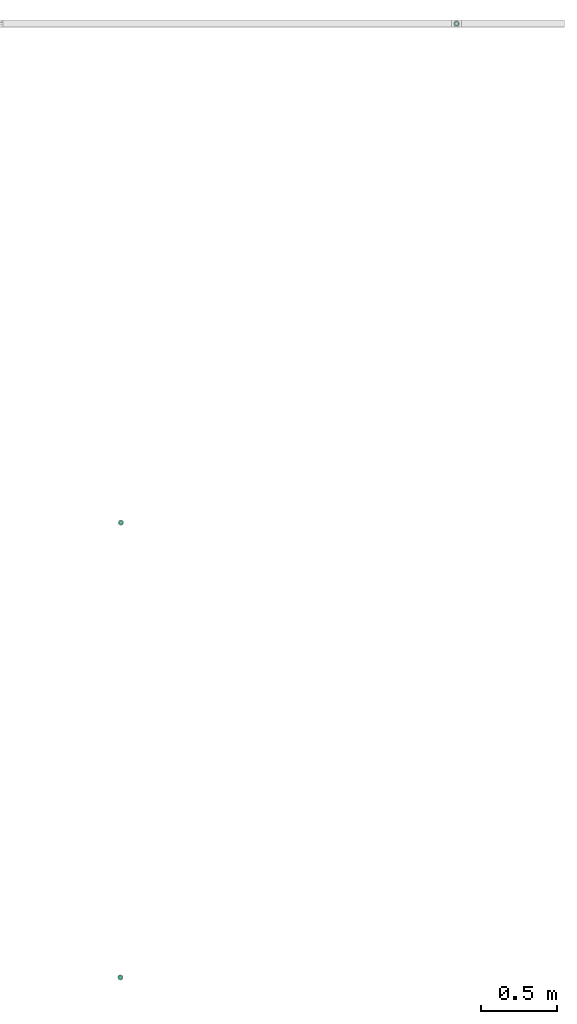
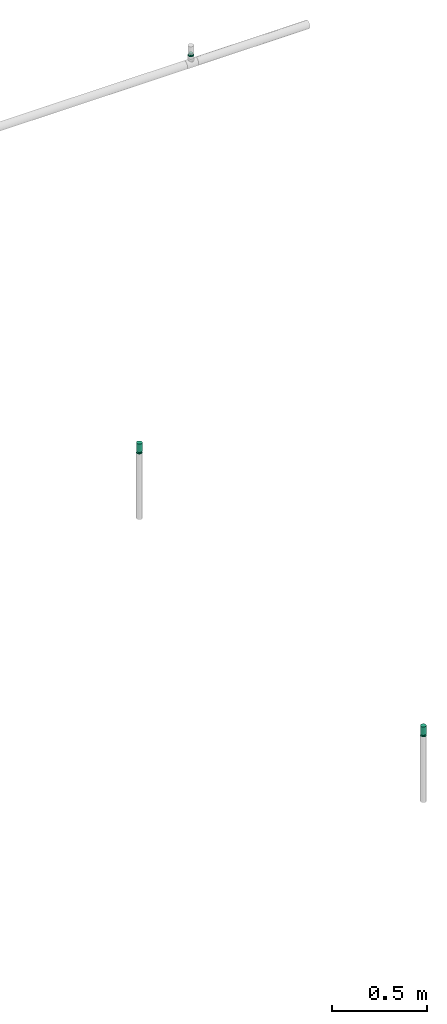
# One storey, part 7 of 14: 3 flow fittings, 2 flow terminals.
"""IFC2X3 building model written with IfcOpenShell, lengths in millimetres."""

from ifc_helpers import new_model, entity, si_unit, converted_unit, derived_unit, direction, frame, origin_with_axes, place, context, subcontext, project, spatial, open_shell, surface_model, source, transform, mapped, type_object, element, save


model = new_model("IFC2X3")

# Units and contexts
model_context = context("Model", 3, precision=0.01, world=frame((0.0, 4.29681676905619e-09, 0.0)), true_north=direction((4.01073788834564e-13, 1.0)))
plan_context = context("Plan", 3, precision=0.01, world=frame((0.0, 4.29681676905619e-09, 0.0)), true_north=direction((4.01073788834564e-13, 1.0)))
body_context = subcontext(model_context, "Body", "Model", "MODEL_VIEW")
ifc_project = project(units=[converted_unit("PLANEANGLEUNIT", "DEGREE", entity("IfcPositiveLengthMeasure", 0.0174532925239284), si_unit("PLANEANGLEUNIT", "RADIAN"), dimensions=[0, 0, 0, 0, 0, 0, 0]), si_unit("AREAUNIT", "SQUARE_METRE"), si_unit("LENGTHUNIT", "METRE", prefix="MILLI"), si_unit("MASSUNIT", "GRAM", prefix="KILO"), si_unit("POWERUNIT", "WATT"), si_unit("PRESSUREUNIT", "PASCAL", prefix="KILO"), si_unit("FORCEUNIT", "NEWTON", prefix="KILO"), si_unit("ELECTRICVOLTAGEUNIT", "VOLT"), si_unit("ELECTRICCURRENTUNIT", "AMPERE"), si_unit("THERMODYNAMICTEMPERATUREUNIT", "DEGREE_CELSIUS"), si_unit("TIMEUNIT", "SECOND"), si_unit("VOLUMEUNIT", "CUBIC_METRE"), derived_unit("LINEARVELOCITYUNIT", [(si_unit("LENGTHUNIT", "METRE"), 1), (si_unit("TIMEUNIT", "SECOND"), -1)]), derived_unit("VOLUMETRICFLOWRATEUNIT", [(si_unit("VOLUMEUNIT", "CUBIC_METRE"), 1), (si_unit("TIMEUNIT", "SECOND"), -1)]), derived_unit("THERMALTRANSMITTANCEUNIT", [(si_unit("POWERUNIT", "WATT"), 1), (si_unit("THERMODYNAMICTEMPERATUREUNIT", "KELVIN"), -1), (si_unit("AREAUNIT", "SQUARE_METRE"), -1)]), derived_unit("SOUNDPRESSUREUNIT", [(si_unit("PRESSUREUNIT", "PASCAL"), 1)])], contexts=[model_context, plan_context])

# Site, building, storey
site_placement = place(None, frame((0.0, -4.29681676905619e-09, 0.0), z_axis=(0.0, 0.0, 1.0), x_axis=(1.0, 0.0, 0.0)))
site = spatial("IfcSite", under=ifc_project, at=site_placement, CompositionType="ELEMENT")
building_placement = place(site_placement, frame((0.0, 4.29681676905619e-09, 0.0), z_axis=(0.0, 0.0, 1.0), x_axis=(1.0, 0.0, 0.0)))
building = spatial("IfcBuilding", under=site, at=building_placement, Name="mc-building", CompositionType="ELEMENT")
storey_placement = place(building_placement, frame((0.0, 0.0, 204000.0), z_axis=(0.0, 0.0, 1.0), x_axis=(1.0, 0.0, 0.0)))
storey = spatial("IfcBuildingStorey", under=building, at=storey_placement, Name="Nivå D", CompositionType="ELEMENT", Elevation=204000.0)

# Flow fittings
pipe_fitting_type = type_object("IfcPipeFittingType", Name="magi_pipe_fe_reducer_centric_short_NOR", PredefinedType="TRANSITION")
shared_shape_1 = source(origin_with_axes(), body_context, "Body", "SurfaceModel", [
    surface_model("IfcShellBasedSurfaceModel", [(14.4, 5.35, -9.26647), (14.4, 0.0, -10.7), (14.4, 2.76936, -10.33541), (14.4, 10.33541, -2.76936), (14.4, 7.56604, -7.56604), (14.4, -5.35, -9.26647), (14.4, 9.26647, -5.35), (14.4, -9.26647, 5.35), (14.4, -2.76936, -10.33541), (14.4, -7.56604, -7.56604), (14.4, -10.33541, -2.76936), (14.4, -9.26647, -5.35), (14.4, 10.33541, 2.76936), (14.4, 10.7, 0.0), (14.4, 9.26647, 5.35), (14.4, 7.56604, 7.56604), (14.4, 2.76936, 10.33541), (14.4, 0.0, 10.7), (14.4, 5.35, 9.26647), (14.4, -10.33541, 2.76936), (14.4, -10.7, 0.0), (14.4, -7.56604, 7.56604), (14.4, -2.76936, 10.33541), (14.4, -5.35, 9.26647), (12.4, 0.0, 10.7), (12.4, 2.76936, 10.33541), (12.4, 5.35, 9.26647), (12.4, 7.56604, 7.56604), (12.4, 9.26647, 5.35), (12.4, 10.33541, 2.76936), (12.4, -10.33541, 2.76936), (12.4, 10.33541, -2.76936), (12.4, -2.76936, 10.33541), (12.4, -7.56604, 7.56604), (12.4, -5.35, 9.26647), (12.4, -9.26647, 5.35), (12.4, -10.33541, -2.76936), (12.4, -10.7, 0.0), (12.4, 2.76936, -10.33541), (12.4, 9.26647, -5.35), (12.4, 7.56604, -7.56604), (12.4, 5.35, -9.26647), (12.4, -7.56604, -7.56604), (12.4, -9.26647, -5.35), (12.4, -5.35, -9.26647), (12.4, 0.0, -10.7), (12.4, -2.76936, -10.33541), (12.4, 10.7, 0.0), (-2.0, 11.9501, 11.9501), (-2.0, 0.0, 16.9), (-2.0, 4.37404, 16.32415), (-2.0, 8.45, 14.63583), (-2.0, 14.63583, 8.45), (-2.0, 16.32415, 4.37404), (-2.0, -16.32415, 4.37404), (-2.0, -8.45, 14.63583), (-2.0, -14.63583, 8.45), (-2.0, -11.9501, 11.9501), (-2.0, -4.37404, 16.32415), (-2.0, -16.32415, -4.37404), (-2.0, -16.9, 0.0), (-2.0, -8.45, -14.63583), (-2.0, 16.32415, -4.37404), (-2.0, 11.9501, -11.9501), (-2.0, 14.63583, -8.45), (-2.0, 8.45, -14.63583), (-2.0, 4.37404, -16.32415), (-2.0, 0.0, -16.9), (-2.0, -11.9501, -11.9501), (-2.0, -14.63583, -8.45), (-2.0, -4.37404, -16.32415), (-2.0, 16.9, 0.0), (0.0, 4.37404, -16.32415), (0.0, 8.45, -14.63583), (0.0, 11.9501, -11.9501), (0.0, 0.0, -16.9), (0.0, 16.32415, -4.37404), (0.0, 16.32415, 4.37404), (0.0, 14.63583, -8.45), (0.0, -8.45, -14.63583), (0.0, -4.37404, -16.32415), (0.0, -11.9501, -11.9501), (0.0, -16.32415, -4.37404), (0.0, -14.63583, -8.45), (0.0, -16.32415, 4.37404), (0.0, 16.9, 0.0), (0.0, 14.63583, 8.45), (0.0, 11.9501, 11.9501), (0.0, 4.37404, 16.32415), (0.0, 8.45, 14.63583), (0.0, 0.0, 16.9), (0.0, -14.63583, 8.45), (0.0, -16.9, 0.0), (0.0, -8.45, 14.63583), (0.0, -11.9501, 11.9501), (0.0, -4.37404, 16.32415), (12.4, 9.3625, -2.31662), (0.0, 14.42505, -5.97505), (0.0, 15.66253, -2.98753), (12.4, -6.6875, -6.94985), (0.0, -13.18758, -8.96258), (0.0, 2.98753, -15.66253), (12.4, 0.0, -9.26647), (12.4, 6.6875, -6.94985), (0.0, 8.96258, -13.18758), (12.4, -9.3625, -2.31662), (0.0, -15.66253, -2.98753), (0.0, -14.42505, -5.97505), (0.0, 5.97505, -14.42505), (0.0, -2.98753, -15.66253), (0.0, -8.96258, -13.18758), (0.0, 13.18758, -8.96258), (12.4, 8.025, -4.63324), (12.4, -2.675, -9.26647), (12.4, 2.675, -9.26647), (0.0, -5.97505, -14.42505), (12.4, -8.025, -4.63324), (12.4, -9.3625, 2.31662), (0.0, -14.42505, 5.97505), (0.0, -15.66253, 2.98753), (12.4, 6.6875, 6.94985), (0.0, 13.18758, 8.96258), (0.0, -2.98753, 15.66253), (12.4, 0.0, 9.26647), (12.4, -6.6875, 6.94985), (0.0, -8.96258, 13.18758), (12.4, 9.3625, 2.31662), (0.0, 15.66253, 2.98753), (0.0, 14.42505, 5.97505), (0.0, -5.97505, 14.42505), (0.0, 2.98753, 15.66253), (0.0, 8.96258, 13.18758), (0.0, -13.18758, 8.96258), (12.4, -8.025, 4.63324), (12.4, 2.675, 9.26647), (12.4, -2.675, 9.26647), (0.0, 5.97505, 14.42505), (12.4, 8.025, 4.63324)], [open_shell([[[0, 1, 2]], [[3, 0, 4]], [[5, 0, 3]], [[3, 4, 6]], [[7, 5, 3]], [[1, 5, 8]], [[1, 0, 5]], [[9, 10, 11]], [[10, 9, 5]], [[5, 7, 10]], [[12, 3, 13]], [[12, 14, 15]], [[3, 15, 7]], [[16, 17, 15]], [[16, 15, 18]], [[7, 15, 17]], [[10, 19, 20]], [[7, 19, 10]], [[21, 22, 23]], [[22, 21, 7]], [[17, 22, 7]], [[3, 12, 15]], [[24, 25, 26]], [[24, 26, 27]], [[27, 28, 29]], [[24, 27, 30]], [[31, 30, 27]], [[32, 33, 34]], [[33, 32, 30]], [[33, 30, 35]], [[32, 24, 30]], [[30, 36, 37]], [[31, 27, 29]], [[36, 30, 31]], [[38, 31, 39]], [[40, 41, 38]], [[40, 38, 39]], [[36, 31, 38]], [[36, 42, 43]], [[42, 36, 44]], [[44, 45, 46]], [[44, 36, 38]], [[38, 45, 44]], [[31, 29, 47]], [[36, 10, 37]], [[43, 11, 36]], [[5, 42, 44]], [[43, 42, 9]], [[8, 44, 46]], [[36, 11, 10]], [[10, 20, 37]], [[8, 5, 44]], [[9, 42, 5]], [[9, 11, 43]], [[1, 8, 46]], [[46, 45, 1]], [[38, 2, 45]], [[41, 0, 38]], [[6, 40, 39]], [[41, 40, 4]], [[3, 39, 31]], [[41, 4, 0]], [[0, 2, 38]], [[13, 3, 31]], [[6, 39, 3]], [[6, 4, 40]], [[47, 13, 31]], [[45, 2, 1]], [[29, 12, 47]], [[28, 14, 29]], [[18, 27, 26]], [[28, 27, 15]], [[16, 26, 25]], [[29, 14, 12]], [[12, 13, 47]], [[16, 18, 26]], [[15, 27, 18]], [[15, 14, 28]], [[17, 16, 25]], [[25, 24, 17]], [[32, 22, 24]], [[34, 23, 32]], [[7, 33, 35]], [[34, 33, 21]], [[19, 35, 30]], [[34, 21, 23]], [[23, 22, 32]], [[20, 19, 30]], [[7, 35, 19]], [[7, 21, 33]], [[37, 20, 30]], [[24, 22, 17]], [[48, 49, 50]], [[48, 50, 51]], [[48, 52, 53]], [[48, 53, 49]], [[49, 53, 54]], [[55, 56, 57]], [[55, 58, 49]], [[56, 55, 49]], [[49, 54, 56]], [[54, 59, 60]], [[54, 53, 61]], [[53, 62, 63]], [[63, 62, 64]], [[63, 65, 66]], [[61, 53, 63]], [[67, 63, 66]], [[59, 68, 69]], [[68, 59, 61]], [[61, 67, 70]], [[59, 54, 61]], [[63, 67, 61]], [[53, 71, 62]], [[72, 73, 74]], [[75, 72, 74]], [[74, 76, 77]], [[76, 74, 78]], [[74, 77, 79]], [[75, 79, 80]], [[75, 74, 79]], [[81, 82, 83]], [[82, 81, 79]], [[79, 84, 82]], [[77, 76, 85]], [[77, 86, 87]], [[77, 87, 88]], [[88, 84, 79]], [[88, 87, 89]], [[84, 88, 90]], [[90, 91, 84]], [[92, 82, 84]], [[91, 93, 94]], [[91, 90, 93]], [[93, 90, 95]], [[79, 77, 88]], [[59, 82, 60]], [[69, 83, 59]], [[79, 68, 61]], [[69, 68, 81]], [[80, 61, 70]], [[59, 83, 82]], [[82, 92, 60]], [[80, 79, 61]], [[81, 68, 79]], [[81, 83, 69]], [[75, 80, 70]], [[70, 67, 75]], [[66, 72, 67]], [[65, 73, 66]], [[78, 63, 64]], [[65, 63, 74]], [[76, 64, 62]], [[65, 74, 73]], [[73, 72, 66]], [[85, 76, 62]], [[78, 64, 76]], [[78, 74, 63]], [[71, 85, 62]], [[67, 72, 75]], [[53, 77, 71]], [[52, 86, 53]], [[89, 48, 51]], [[52, 48, 87]], [[88, 51, 50]], [[53, 86, 77]], [[77, 85, 71]], [[88, 89, 51]], [[87, 48, 89]], [[87, 86, 52]], [[90, 88, 50]], [[50, 49, 90]], [[58, 95, 49]], [[55, 93, 58]], [[91, 57, 56]], [[55, 57, 94]], [[84, 56, 54]], [[55, 94, 93]], [[93, 95, 58]], [[92, 84, 54]], [[91, 56, 84]], [[91, 94, 57]], [[60, 92, 54]], [[49, 95, 90]], [[26, 34, 47]], [[47, 34, 44]], [[44, 41, 47]], [[44, 34, 37]], [[90, 87, 92]], [[92, 94, 90]], [[87, 74, 92]], [[75, 92, 74]], [[81, 92, 75]], [[74, 87, 85]], [[96, 97, 98]], [[81, 99, 100]], [[101, 102, 75]], [[98, 85, 47]], [[74, 103, 104]], [[104, 103, 41]], [[105, 106, 107]], [[41, 108, 104]], [[102, 109, 75]], [[110, 99, 81]], [[47, 96, 98]], [[103, 111, 112]], [[109, 102, 113]], [[37, 92, 106]], [[102, 101, 114]], [[110, 115, 44]], [[96, 112, 97]], [[107, 116, 105]], [[37, 106, 105]], [[113, 115, 109]], [[44, 115, 113]], [[116, 107, 100]], [[108, 41, 114]], [[111, 103, 74]], [[111, 97, 112]], [[99, 110, 44]], [[116, 100, 99]], [[101, 108, 114]], [[117, 118, 119]], [[87, 120, 121]], [[122, 123, 90]], [[119, 92, 37]], [[94, 124, 125]], [[125, 124, 34]], [[126, 127, 128]], [[34, 129, 125]], [[123, 130, 90]], [[131, 120, 87]], [[37, 117, 119]], [[124, 132, 133]], [[130, 123, 134]], [[47, 85, 127]], [[123, 122, 135]], [[131, 136, 26]], [[117, 133, 118]], [[128, 137, 126]], [[47, 127, 126]], [[134, 136, 130]], [[26, 136, 134]], [[137, 128, 121]], [[129, 34, 135]], [[132, 124, 94]], [[132, 118, 133]], [[120, 131, 26]], [[137, 121, 120]], [[122, 129, 135]]])]),
])
for number, where, z_axis, x_axis, name in (
    (1, (601060.0, 576802.46783, 6108.64799999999), (0.0, 1.0, 0.0), (0.0, 0.0, 1.0), "magi_pipe_fe_reducer_centric_short_NOR"),
    (2, (598842.4709, 573505.33925, 6323.53031), (0.0, 1.0, 0.0), (0.0, 0.0, 1.0), "magi_pipe_fe_reducer_centric_short_NOR"),
    (3, (598839.0246, 570500.0, 6323.848), (0.0, 1.0, 0.0), (0.0, 0.0, 1.0), "magi_pipe_fe_reducer_centric_short_NOR"),
):
    element("IfcFlowFitting", number, at=place(storey_placement, frame(where, z_axis=z_axis, x_axis=x_axis)), inside=storey, type_object=pipe_fitting_type, Name=name, context=body_context, shape_type="MappedRepresentation", body=[
        mapped(shared_shape_1, transform((0.0, 0.0, 0.0), scale=1.0)),
    ])

# Flow terminals
fire_suppression_terminal_type = type_object("IfcFireSuppressionTerminalType", Name="SP-15-K80-68DGR-STD-STÅENDE", PredefinedType="NOTDEFINED")
shared_shape_2 = source(origin_with_axes(), body_context, "Body", "SurfaceModel", [
    surface_model("IfcShellBasedSurfaceModel", [(4.1411, -15.45481, 53.0), (8.0, -13.85641, 53.0), (11.31371, -11.31371, 53.0), (-8.0, -13.85641, 53.0), (15.45481, -4.1411, 53.0), (16.0, 0.0, 53.0), (13.85641, -8.0, 53.0), (0.0, -16.0, 53.0), (-4.1411, -15.45481, 53.0), (-13.85641, -8.0, 53.0), (-11.31371, -11.31371, 53.0), (-15.45481, -4.1411, 53.0), (15.45481, 4.1411, 53.0), (13.85641, 8.0, 53.0), (11.31371, 11.31371, 53.0), (-4.1411, 15.45481, 53.0), (8.0, 13.85641, 53.0), (4.1411, 15.45481, 53.0), (0.0, 16.0, 53.0), (-13.85641, 8.0, 53.0), (-15.45481, 4.1411, 53.0), (-16.0, 0.0, 53.0), (-11.31371, 11.31371, 53.0), (-8.0, 13.85641, 53.0), (0.0, 16.0, 0.0), (4.1411, 15.45481, 0.0), (8.0, 13.85641, 0.0), (-4.1411, 15.45481, 0.0), (11.31371, 11.31371, 0.0), (13.85641, 8.0, 0.0), (15.45481, 4.1411, 0.0), (-15.45481, -4.1411, 0.0), (-11.31371, 11.31371, 0.0), (-8.0, 13.85641, 0.0), (-13.85641, 8.0, 0.0), (-15.45481, 4.1411, 0.0), (-16.0, 0.0, 0.0), (4.1411, -15.45481, 0.0), (16.0, 0.0, 0.0), (15.45481, -4.1411, 0.0), (13.85641, -8.0, 0.0), (11.31371, -11.31371, 0.0), (8.0, -13.85641, 0.0), (-8.0, -13.85641, 0.0), (-13.85641, -8.0, 0.0), (-11.31371, -11.31371, 0.0), (0.0, -16.0, 0.0), (-4.1411, -15.45481, 0.0)], [open_shell([[[0, 1, 2]], [[3, 0, 2]], [[4, 5, 2]], [[4, 2, 6]], [[3, 2, 5]], [[7, 3, 8]], [[7, 0, 3]], [[3, 9, 10]], [[9, 3, 11]], [[5, 11, 3]], [[5, 12, 11]], [[12, 13, 14]], [[15, 12, 14]], [[16, 17, 18]], [[14, 16, 15]], [[18, 15, 16]], [[11, 19, 20]], [[21, 11, 20]], [[22, 15, 23]], [[15, 22, 19]], [[19, 11, 15]], [[11, 12, 15]], [[24, 25, 26]], [[27, 24, 26]], [[28, 29, 30]], [[27, 26, 28]], [[27, 28, 31]], [[27, 32, 33]], [[32, 27, 34]], [[34, 31, 35]], [[31, 34, 27]], [[35, 31, 36]], [[28, 30, 31]], [[37, 38, 39]], [[37, 39, 40]], [[41, 42, 37]], [[41, 37, 40]], [[38, 37, 43]], [[44, 43, 45]], [[43, 44, 31]], [[43, 46, 47]], [[43, 31, 38]], [[37, 46, 43]], [[38, 31, 30]], [[11, 31, 44]], [[45, 9, 44]], [[3, 43, 47]], [[45, 43, 10]], [[8, 47, 46]], [[31, 21, 36]], [[31, 11, 21]], [[44, 9, 11]], [[45, 10, 9]], [[3, 10, 43]], [[47, 8, 3]], [[46, 7, 8]], [[0, 37, 42]], [[41, 1, 42]], [[6, 40, 39]], [[41, 40, 2]], [[4, 39, 38]], [[37, 0, 7]], [[42, 1, 0]], [[41, 2, 1]], [[40, 6, 2]], [[4, 6, 39]], [[38, 5, 4]], [[37, 7, 46]], [[12, 38, 30]], [[13, 30, 29]], [[16, 26, 25]], [[17, 25, 24]], [[30, 13, 12]], [[12, 5, 38]], [[28, 14, 13]], [[28, 26, 14]], [[14, 26, 16]], [[25, 17, 16]], [[28, 13, 29]], [[24, 18, 17]], [[15, 27, 33]], [[32, 23, 33]], [[19, 34, 35]], [[32, 34, 22]], [[20, 35, 36]], [[27, 15, 18]], [[33, 23, 15]], [[32, 22, 23]], [[34, 19, 22]], [[20, 19, 35]], [[36, 21, 20]], [[27, 18, 24]]])]),
])
for number, where, z_axis, x_axis in (
    (4, (598842.4709, 573505.33925, 6332.88230999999), (0.0, 0.0, 1.0), (1.0, 0.0, 0.0)),
    (5, (598839.0246, 570500.0, 6333.20000000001), (0.0, 0.0, 1.0), (1.0, 0.0, 0.0)),
):
    element("IfcFlowTerminal", number, at=place(storey_placement, frame(where, z_axis=z_axis, x_axis=x_axis)), inside=storey, type_object=fire_suppression_terminal_type, Name="SP-15-K80-68DGR-STD-STÅENDE", context=body_context, shape_type="MappedRepresentation", body=[
        mapped(shared_shape_2, transform((0.0, 0.0, 0.0), scale=1.0)),
    ])

save(model, "model.ifc")
